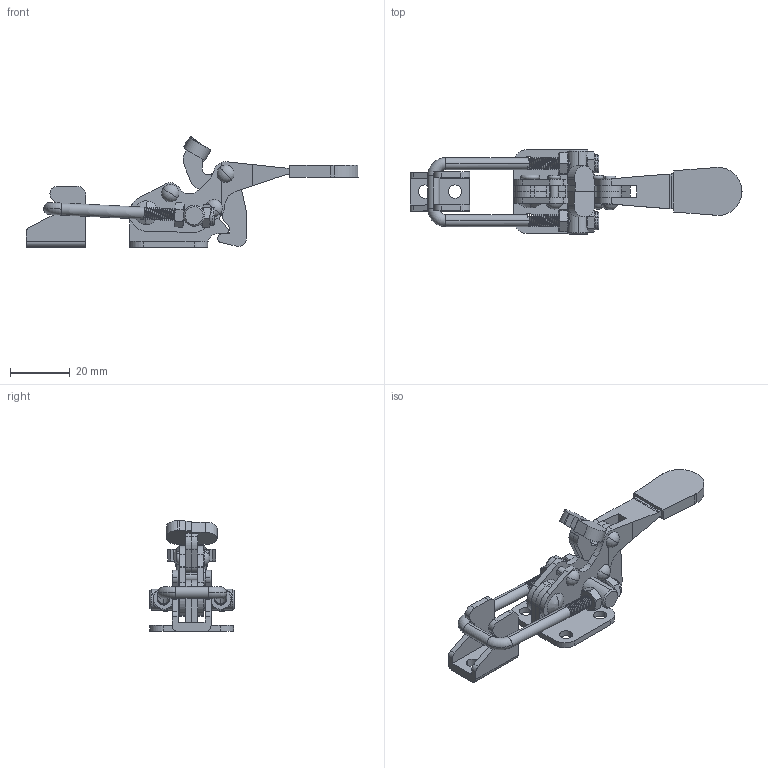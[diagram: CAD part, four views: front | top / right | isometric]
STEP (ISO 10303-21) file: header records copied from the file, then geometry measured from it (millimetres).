
FILE_DESCRIPTION (( 'STEP AP214' ), '1' );
FILE_NAME ('DST-40323-R.STEP', '2026-09-24T08:06:13', ( '' ), ( '' ), 'SwSTEP 2.0', 'SolidWorks 2024', '' );
FILE_SCHEMA (( 'AUTOMOTIVE_DESIGN' ));
Length unit declared in the file: millimetre
Products named in the file (14): M4 LOCK NUT; DST-40323-R-01______; __001; CH-40323-04 PERMANENT SEAT; DST-40323-R-01____; 2.9-8____; DST-40323-R(2); __002; CH-40323-05 ROTOR; M4 NUT; CH-40323-02 HOOK; DST-40323-R; CH-40323-06; DST-40323-R-03____
Assembly tree (17 placements, depth 3):
  DST-40323-R
    DST-40323-R(2)
      DST-40323-R-01____
      DST-40323-R-01______
      DST-40323-R-03____
      __001
      __002
      CH-40323-04 PERMANENT SEAT
      CH-40323-06
      CH-40323-05 ROTOR
      CH-40323-02 HOOK
      M4 NUT  x2
      M4 LOCK NUT  x2
      2.9-8____  x3
Bounding box: 110.7 x 28.32 x 36.99 mm (x, y, z)
Volume: 12468.2 mm3; surface area: 14998.1 mm2
Topology: 16 solids, 16 shells, 591 faces, 1607 edges, 1034 vertices
Faces by surface type: cylinder 339, plane 160, cone 54, torus 22, bspline 16
Entity records: 27130 total; most frequent: CARTESIAN_POINT 14546, ORIENTED_EDGE 2784, DIRECTION 2369, EDGE_CURVE 1392, VERTEX_POINT 909, AXIS2_PLACEMENT_3D 867, LINE 635, VECTOR 635
